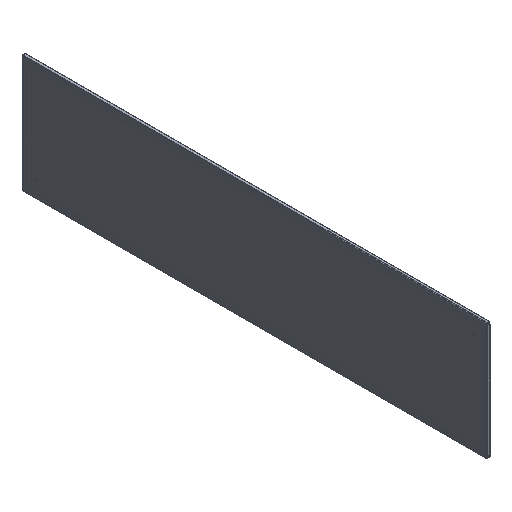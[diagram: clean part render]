
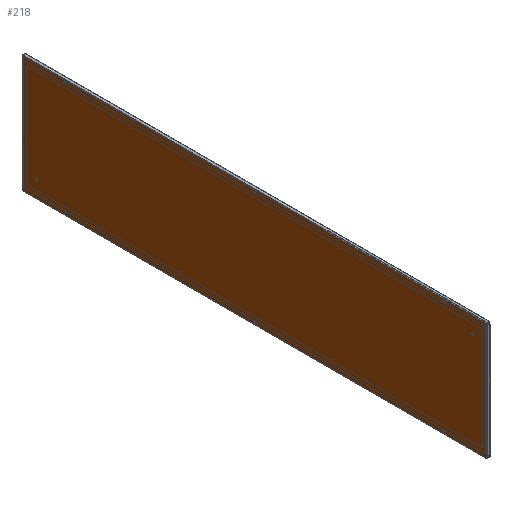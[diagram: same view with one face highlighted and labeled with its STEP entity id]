
A CAD part, isometric view. The second image highlights one B-rep face of the part: STEP entity #218.
In plain terms, the highlighted planar face has unit normal (-1, 0, 0).
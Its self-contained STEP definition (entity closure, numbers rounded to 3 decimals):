
#218=ADVANCED_FACE('',(#1303,#1305,#1307,#1309,#1311,#1313,#1315),#1317,.F.);
#1303=FACE_BOUND('',#1304,.T.);
#1304=EDGE_LOOP('',(#2525,#2526,#2527,#2528));
#1305=FACE_BOUND('',#1306,.T.);
#1306=EDGE_LOOP('',(#2529));
#1307=FACE_BOUND('',#1308,.T.);
#1308=EDGE_LOOP('',(#2530));
#1309=FACE_BOUND('',#1310,.T.);
#1310=EDGE_LOOP('',(#2531));
#1311=FACE_BOUND('',#1312,.T.);
#1312=EDGE_LOOP('',(#2532));
#1313=FACE_BOUND('',#1314,.T.);
#1314=EDGE_LOOP('',(#2533));
#1315=FACE_BOUND('',#1316,.T.);
#1316=EDGE_LOOP('',(#2534));
#1317=PLANE('',#1318);
#1318=AXIS2_PLACEMENT_3D('',#1319,#1320,#1321);
#1319=CARTESIAN_POINT('',(0.,0.,0.));
#1320=DIRECTION('',(1.,0.,0.));
#1321=DIRECTION('',(0.,0.,-1.));
#2525=ORIENTED_EDGE('',*,*,#3029,.T.);
#2526=ORIENTED_EDGE('',*,*,#3030,.T.);
#2527=ORIENTED_EDGE('',*,*,#3031,.T.);
#2528=ORIENTED_EDGE('',*,*,#3032,.T.);
#2529=ORIENTED_EDGE('',*,*,#3014,.F.);
#2530=ORIENTED_EDGE('',*,*,#3016,.F.);
#2531=ORIENTED_EDGE('',*,*,#3018,.F.);
#2532=ORIENTED_EDGE('',*,*,#3020,.F.);
#2533=ORIENTED_EDGE('',*,*,#3022,.F.);
#2534=ORIENTED_EDGE('',*,*,#3024,.F.);
#3014=EDGE_CURVE('',#3287,#3287,#3288,.T.);
#3016=EDGE_CURVE('',#3291,#3291,#3292,.T.);
#3018=EDGE_CURVE('',#3295,#3295,#3296,.T.);
#3020=EDGE_CURVE('',#3299,#3299,#3300,.T.);
#3022=EDGE_CURVE('',#3303,#3303,#3304,.T.);
#3024=EDGE_CURVE('',#3307,#3307,#3308,.T.);
#3029=EDGE_CURVE('',#3317,#3318,#3319,.T.);
#3030=EDGE_CURVE('',#3318,#3320,#3321,.T.);
#3031=EDGE_CURVE('',#3320,#3322,#3323,.T.);
#3032=EDGE_CURVE('',#3322,#3317,#3324,.T.);
#3287=VERTEX_POINT('',#3758);
#3288=CIRCLE('',#3759,3.15);
#3291=VERTEX_POINT('',#3768);
#3292=CIRCLE('',#3769,3.15);
#3295=VERTEX_POINT('',#3778);
#3296=CIRCLE('',#3779,3.15);
#3299=VERTEX_POINT('',#3788);
#3300=CIRCLE('',#3789,3.15);
#3303=VERTEX_POINT('',#3798);
#3304=CIRCLE('',#3799,3.15);
#3307=VERTEX_POINT('',#3808);
#3308=CIRCLE('',#3809,3.15);
#3317=VERTEX_POINT('',#3829);
#3318=VERTEX_POINT('',#3830);
#3319=LINE('',#3831,#3832);
#3320=VERTEX_POINT('',#3834);
#3321=LINE('',#3835,#3836);
#3322=VERTEX_POINT('',#3838);
#3323=LINE('',#3839,#3840);
#3324=LINE('',#3842,#3843);
#3758=CARTESIAN_POINT('',(0.,-888.5,-263.35));
#3759=AXIS2_PLACEMENT_3D('',#3760,#3761,#3762);
#3760=CARTESIAN_POINT('',(0.,-888.5,-266.5));
#3761=DIRECTION('',(-1.,0.,0.));
#3762=DIRECTION('',(0.,0.,-1.));
#3768=CARTESIAN_POINT('',(0.,0.,269.65));
#3769=AXIS2_PLACEMENT_3D('',#3770,#3771,#3772);
#3770=CARTESIAN_POINT('',(0.,0.,266.5));
#3771=DIRECTION('',(-1.,0.,0.));
#3772=DIRECTION('',(0.,0.,-1.));
#3778=CARTESIAN_POINT('',(0.,0.,-263.35));
#3779=AXIS2_PLACEMENT_3D('',#3780,#3781,#3782);
#3780=CARTESIAN_POINT('',(0.,0.,-266.5));
#3781=DIRECTION('',(-1.,0.,0.));
#3782=DIRECTION('',(0.,0.,-1.));
#3788=CARTESIAN_POINT('',(0.,888.5,269.65));
#3789=AXIS2_PLACEMENT_3D('',#3790,#3791,#3792);
#3790=CARTESIAN_POINT('',(0.,888.5,266.5));
#3791=DIRECTION('',(-1.,0.,0.));
#3792=DIRECTION('',(0.,0.,-1.));
#3798=CARTESIAN_POINT('',(0.,-888.5,269.65));
#3799=AXIS2_PLACEMENT_3D('',#3800,#3801,#3802);
#3800=CARTESIAN_POINT('',(0.,-888.5,266.5));
#3801=DIRECTION('',(-1.,0.,0.));
#3802=DIRECTION('',(0.,0.,-1.));
#3808=CARTESIAN_POINT('',(0.,888.5,-263.35));
#3809=AXIS2_PLACEMENT_3D('',#3810,#3811,#3812);
#3810=CARTESIAN_POINT('',(0.,888.5,-266.5));
#3811=DIRECTION('',(-1.,0.,0.));
#3812=DIRECTION('',(0.,0.,-1.));
#3829=CARTESIAN_POINT('',(0.,1089.8,-273.3));
#3830=CARTESIAN_POINT('',(0.,-1089.8,-273.3));
#3831=CARTESIAN_POINT('',(0.,1089.8,-273.3));
#3832=VECTOR('',#3833,1.);
#3833=DIRECTION('',(0.,-1.,0.));
#3834=CARTESIAN_POINT('',(0.,-1089.8,273.3));
#3835=CARTESIAN_POINT('',(0.,-1089.8,-273.3));
#3836=VECTOR('',#3837,1.);
#3837=DIRECTION('',(0.,0.,1.));
#3838=CARTESIAN_POINT('',(0.,1089.8,273.3));
#3839=CARTESIAN_POINT('',(0.,-1089.8,273.3));
#3840=VECTOR('',#3841,1.);
#3841=DIRECTION('',(0.,1.,0.));
#3842=CARTESIAN_POINT('',(0.,1089.8,273.3));
#3843=VECTOR('',#3844,1.);
#3844=DIRECTION('',(0.,0.,-1.));
